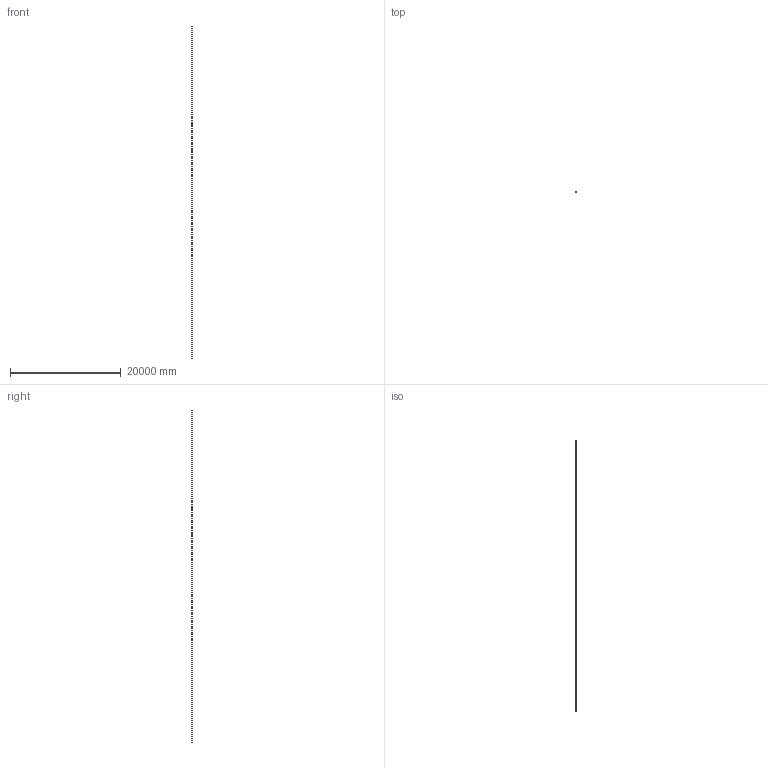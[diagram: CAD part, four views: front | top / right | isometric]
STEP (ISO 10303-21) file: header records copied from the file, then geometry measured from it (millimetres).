
FILE_DESCRIPTION (( 'STEP AP203' ), '1' );
FILE_NAME ('faisceau_Défaut_sldprt.STEP', '2018-04-06T14:29:01', ( '' ), ( '' ), 'SwSTEP 2.0', 'SolidWorks 2013', '' );
FILE_SCHEMA (( 'CONFIG_CONTROL_DESIGN' ));
Length unit declared in the file: millimetre
Products named in the file (1): faisceau_Défaut_sldprt
Bounding box: 30 x 25.98 x 60000 mm (x, y, z)
Volume: 563601.7 mm3; surface area: 11272053.2 mm2
Topology: 1 solids, 1 shells, 6 faces, 12 edges, 8 vertices
Faces by surface type: cylinder 4, plane 2
Entity records: 245 total; most frequent: DIRECTION 34, CARTESIAN_POINT 27, ORIENTED_EDGE 24, AXIS2_PLACEMENT_3D 15, EDGE_CURVE 12, PERSON_AND_ORGANIZATION 8, VERTEX_POINT 8, CIRCLE 8
